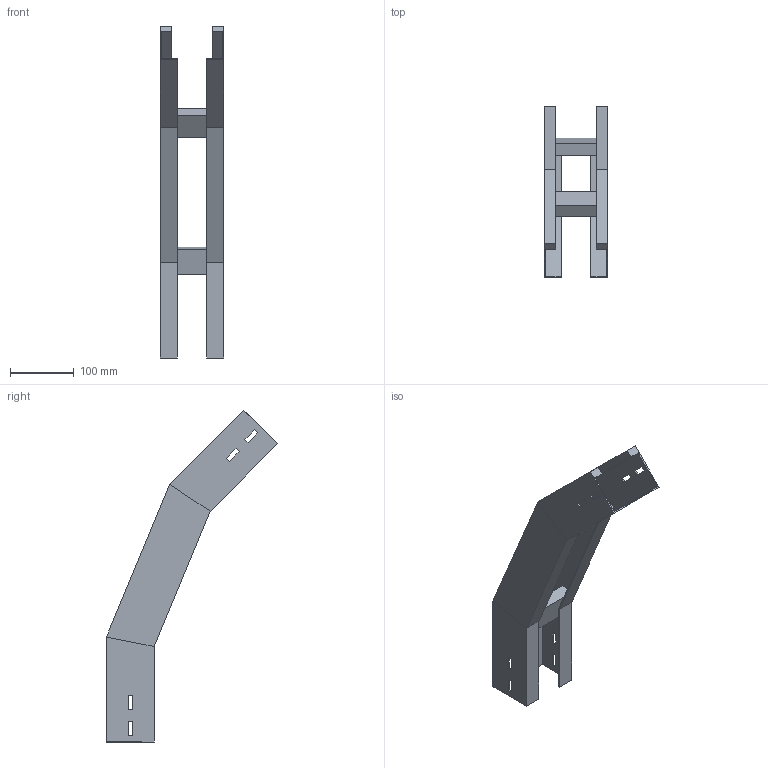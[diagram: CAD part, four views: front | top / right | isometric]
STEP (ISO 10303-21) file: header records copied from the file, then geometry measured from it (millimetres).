
FILE_DESCRIPTION (( 'STEP AP214' ), '1' );
FILE_NAME ('A2_34B3C100.step', '2025-02-21T14:54:46', ( '' ), ( '' ), 'SwSTEP 2.0', 'SolidWorks 2023', '' );
FILE_SCHEMA (( 'AUTOMOTIVE_DESIGN' ));
Length unit declared in the file: millimetre
Products named in the file (3): A2_34B3C100; LONGH.DISCESA_45°_H75_R300; TRAVERSINO_100
Assembly tree (5 placements, depth 2):
  A2_34B3C100
    LONGH.DISCESA_45°_H75_R300  x2
    TRAVERSINO_100  x3
Bounding box: 100 x 269.08 x 521.59 mm (x, y, z)
Volume: 676448.1 mm3; surface area: 302682.9 mm2
Topology: 5 solids, 5 shells, 102 faces, 244 edges, 152 vertices
Faces by surface type: plane 102
Entity records: 1480 total; most frequent: CARTESIAN_POINT 244, ORIENTED_EDGE 232, DIRECTION 228, VECTOR 116, EDGE_CURVE 116, LINE 116, VERTEX_POINT 72, AXIS2_PLACEMENT_3D 56
